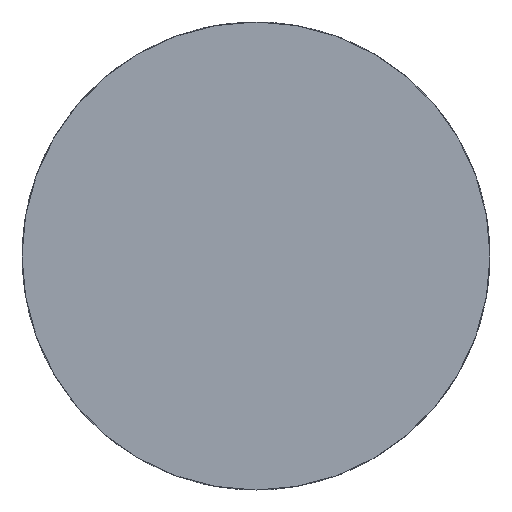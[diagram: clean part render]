
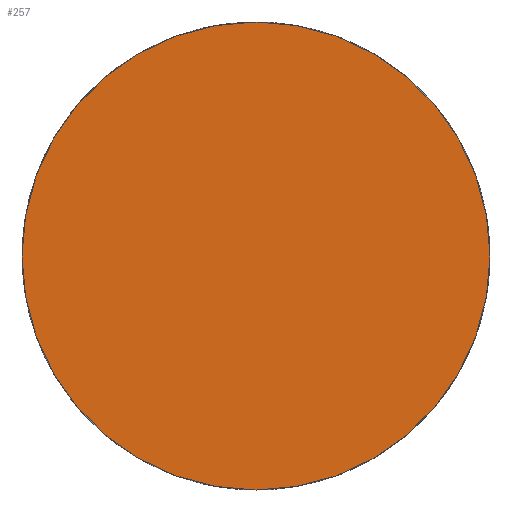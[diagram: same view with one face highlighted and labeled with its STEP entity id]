
A CAD part, left-side view. The second image highlights one B-rep face of the part: STEP entity #257.
In plain terms, the highlighted planar face has unit normal (-1, 0, 0).
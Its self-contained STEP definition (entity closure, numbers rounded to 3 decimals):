
#257 = ADVANCED_FACE( '', ( #647 ), #648, .F. );
#647 = FACE_OUTER_BOUND( '', #1168, .T. );
#648 = PLANE( '', #1169 );
#1168 = EDGE_LOOP( '', ( #1842 ) );
#1169 = AXIS2_PLACEMENT_3D( '', #1843, #1844, #1845 );
#1842 = ORIENTED_EDGE( '', *, *, #3438, .F. );
#1843 = CARTESIAN_POINT( '', ( 0., 0., 0. ) );
#1844 = DIRECTION( '', ( 1., 0., 0. ) );
#1845 = DIRECTION( '', ( 0., 0., -1. ) );
#3438 = EDGE_CURVE( '', #4232, #4232, #4233, .T. );
#4232 = VERTEX_POINT( '', #5336 );
#4233 = CIRCLE( '', #5337, 9.645 );
#5336 = CARTESIAN_POINT( '', ( 0., 0., -9.645 ) );
#5337 = AXIS2_PLACEMENT_3D( '', #6466, #6467, #6468 );
#6466 = CARTESIAN_POINT( '', ( 0., 0., 0. ) );
#6467 = DIRECTION( '', ( 1., 0., 0. ) );
#6468 = DIRECTION( '', ( 0., 0., -1. ) );
